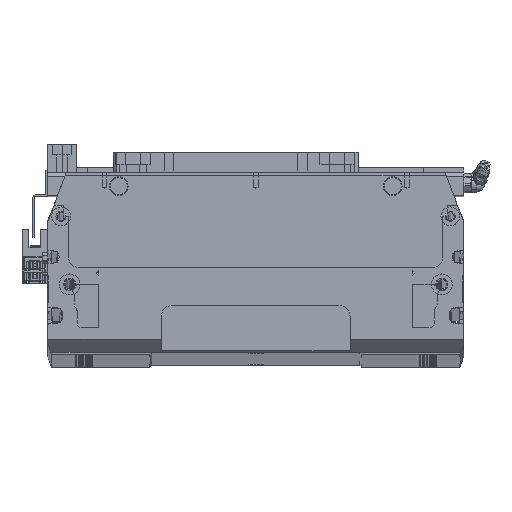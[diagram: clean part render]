
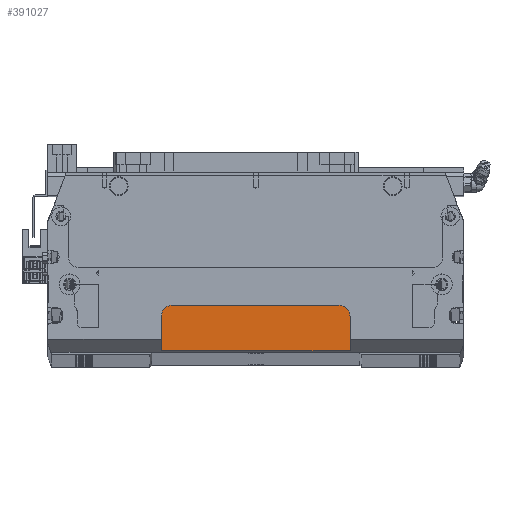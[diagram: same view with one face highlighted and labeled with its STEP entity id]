
A CAD part, top view. The second image highlights one B-rep face of the part: STEP entity #391027.
In plain terms, the highlighted planar face has unit normal (0, 0, 1) as drawn and (0, 1, 0) by its records, which use the part's own axes.
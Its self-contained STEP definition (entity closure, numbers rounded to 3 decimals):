
#5814 = VERTEX_POINT ( 'NONE', #116588 ) ;
#7058 = CARTESIAN_POINT ( 'NONE',  ( -50., 8., 33.25 ) ) ;
#7353 = CARTESIAN_POINT ( 'NONE',  ( 50., 8., 58.25 ) ) ;
#21296 = DIRECTION ( 'NONE',  ( 0., -1., 0. ) ) ;
#28978 = VECTOR ( 'NONE', #340352, 1000. ) ;
#29884 = DIRECTION ( 'NONE',  ( 0., 0., 1. ) ) ;
#57323 = FACE_OUTER_BOUND ( 'NONE', #101152, .T. ) ;
#59000 = ORIENTED_EDGE ( 'NONE', *, *, #469568, .T. ) ;
#64831 = DIRECTION ( 'NONE',  ( 0., 0., -1. ) ) ;
#72244 = ORIENTED_EDGE ( 'NONE', *, *, #116221, .T. ) ;
#75011 = LINE ( 'NONE', #7353, #28978 ) ;
#91852 = DIRECTION ( 'NONE',  ( 0., 0., -1. ) ) ;
#94866 = ORIENTED_EDGE ( 'NONE', *, *, #156687, .T. ) ;
#98041 = AXIS2_PLACEMENT_3D ( 'NONE', #471569, #176919, #64831 ) ;
#101152 = EDGE_LOOP ( 'NONE', ( #59000, #318774, #94866, #72244, #322822, #283116 ) ) ;
#116221 = EDGE_CURVE ( 'NONE', #390797, #302453, #203685, .T. ) ;
#116588 = CARTESIAN_POINT ( 'NONE',  ( -50., 8., 57.25 ) ) ;
#131853 = CARTESIAN_POINT ( 'NONE',  ( 0., 8., 0. ) ) ;
#140247 = DIRECTION ( 'NONE',  ( -1., 0., 0. ) ) ;
#150418 = CARTESIAN_POINT ( 'NONE',  ( 50., 8., 57.25 ) ) ;
#155438 = EDGE_CURVE ( 'NONE', #267264, #240526, #337037, .T. ) ;
#156687 = EDGE_CURVE ( 'NONE', #240526, #390797, #285015, .T. ) ;
#166405 = LINE ( 'NONE', #395008, #263975 ) ;
#176919 = DIRECTION ( 'NONE',  ( 0., 1., 0. ) ) ;
#182352 = CARTESIAN_POINT ( 'NONE',  ( -44., 8., 39.25 ) ) ;
#192333 = EDGE_CURVE ( 'NONE', #368233, #5814, #339343, .T. ) ;
#203685 = CIRCLE ( 'NONE', #415226, 6. ) ;
#227693 = VECTOR ( 'NONE', #304826, 1000. ) ;
#240526 = VERTEX_POINT ( 'NONE', #387143 ) ;
#263975 = VECTOR ( 'NONE', #29884, 1000. ) ;
#267264 = VERTEX_POINT ( 'NONE', #294757 ) ;
#283116 = ORIENTED_EDGE ( 'NONE', *, *, #192333, .F. ) ;
#285015 = LINE ( 'NONE', #7058, #227693 ) ;
#294757 = CARTESIAN_POINT ( 'NONE',  ( 50., 8., 39.25 ) ) ;
#299423 = CARTESIAN_POINT ( 'NONE',  ( -50., 8., 39.25 ) ) ;
#302453 = VERTEX_POINT ( 'NONE', #299423 ) ;
#304826 = DIRECTION ( 'NONE',  ( -1., 0., 0. ) ) ;
#313333 = CARTESIAN_POINT ( 'NONE',  ( 110., 8., 57.25 ) ) ;
#318774 = ORIENTED_EDGE ( 'NONE', *, *, #155438, .T. ) ;
#322822 = ORIENTED_EDGE ( 'NONE', *, *, #468244, .T. ) ;
#329697 = DIRECTION ( 'NONE',  ( 0., 0., -1. ) ) ;
#337037 = CIRCLE ( 'NONE', #98041, 6. ) ;
#339343 = LINE ( 'NONE', #313333, #448284 ) ;
#340352 = DIRECTION ( 'NONE',  ( 0., 0., -1. ) ) ;
#368233 = VERTEX_POINT ( 'NONE', #150418 ) ;
#377075 = CARTESIAN_POINT ( 'NONE',  ( -44., 8., 33.25 ) ) ;
#383275 = PLANE ( 'NONE',  #437915 ) ;
#387143 = CARTESIAN_POINT ( 'NONE',  ( 44., 8., 33.25 ) ) ;
#390797 = VERTEX_POINT ( 'NONE', #377075 ) ;
#391027 = ADVANCED_FACE ( 'NONE', ( #57323 ), #383275, .F. ) ;
#395008 = CARTESIAN_POINT ( 'NONE',  ( -50., 8., 58.25 ) ) ;
#415226 = AXIS2_PLACEMENT_3D ( 'NONE', #182352, #438603, #329697 ) ;
#437915 = AXIS2_PLACEMENT_3D ( 'NONE', #131853, #21296, #91852 ) ;
#438603 = DIRECTION ( 'NONE',  ( 0., 1., 0. ) ) ;
#448284 = VECTOR ( 'NONE', #140247, 1000. ) ;
#468244 = EDGE_CURVE ( 'NONE', #302453, #5814, #166405, .T. ) ;
#469568 = EDGE_CURVE ( 'NONE', #368233, #267264, #75011, .T. ) ;
#471569 = CARTESIAN_POINT ( 'NONE',  ( 44., 8., 39.25 ) ) ;
